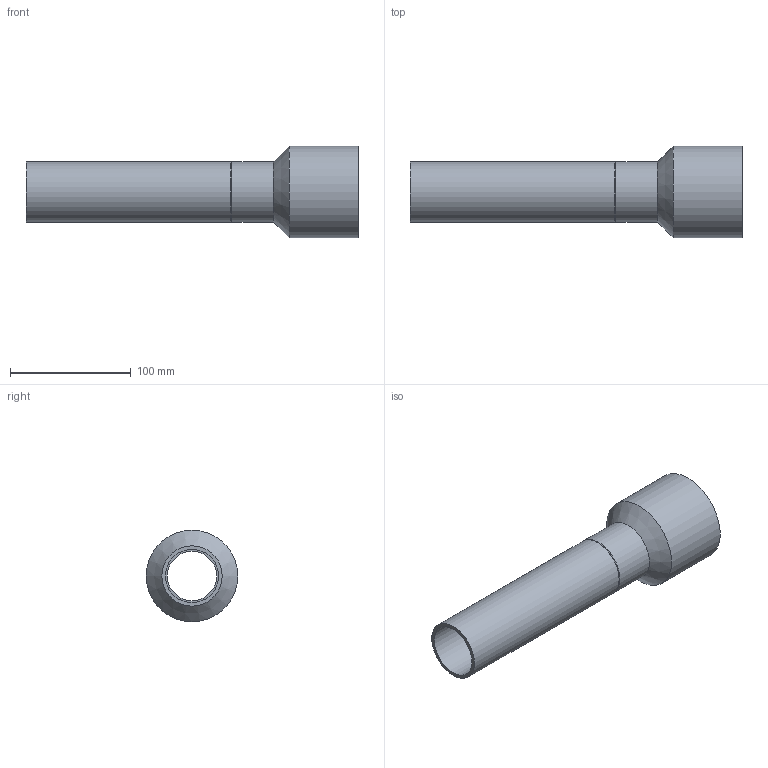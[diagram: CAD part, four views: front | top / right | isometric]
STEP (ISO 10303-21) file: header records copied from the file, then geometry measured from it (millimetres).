
FILE_DESCRIPTION(/* description */ (''),/* implementation_level */ '2;1');
FILE_NAME(/* name */ 'Z:\Geberit\Export\NewStep\152197.stp',/* time_stamp */ '2014-03-31T08:23:10+02:00',/* author */ ('nelson'),/* organization */ (''),/* preprocessor_version */ 'ST-DEVELOPER v15.2',/* originating_system */ 'Autodesk Inventor 2014',/* authorisation */ '');
FILE_SCHEMA (('AUTOMOTIVE_DESIGN { 1 0 10303 214 3 1 1 }'));
Length unit declared in the file: millimetre
Products named in the file (1): 152197
Bounding box: 275 x 76 x 76 mm (x, y, z)
Volume: 141331.1 mm3; surface area: 94937.5 mm2
Topology: 1 solids, 1 shells, 13 faces, 23 edges, 13 vertices
Faces by surface type: cylinder 6, cone 4, plane 3
Full cylindrical faces by diameter (mm): 41 x1, 44 x1, 50 x2, 70 x1, 76 x1
Entity records: 289 total; most frequent: DIRECTION 54, CARTESIAN_POINT 40, AXIS2_PLACEMENT_3D 27, EDGE_LOOP 26, ORIENTED_EDGE 26, FACE_BOUND 14, CIRCLE 13, VERTEX_POINT 13
